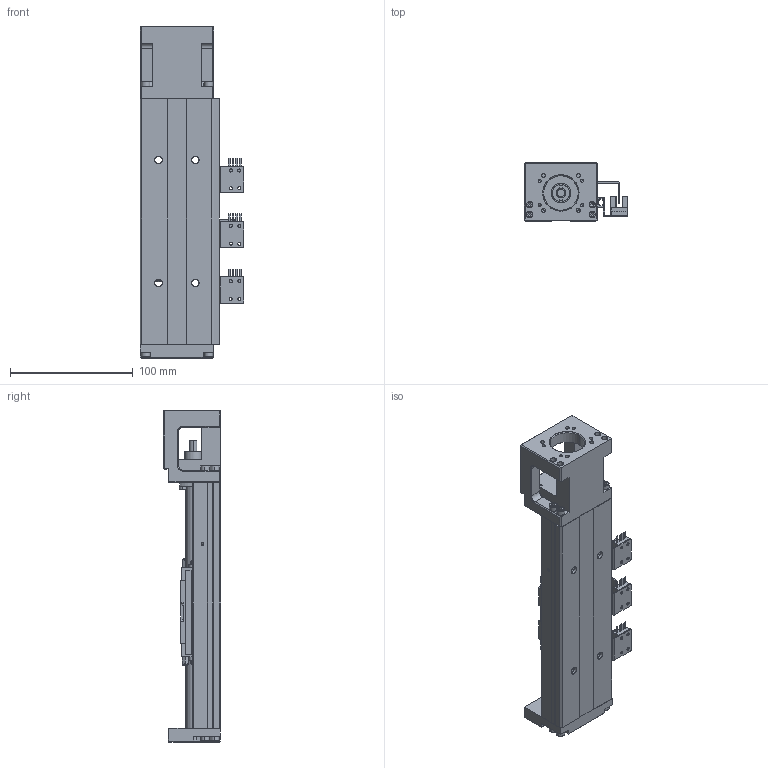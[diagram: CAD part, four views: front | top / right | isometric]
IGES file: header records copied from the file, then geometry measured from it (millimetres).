
Start section: SolidWorks IGES file using analytic representation for surfaces
Global section: file name: C:\Users\Administrator\Desktop\600L\ﾎﾞｻｬﾌｨ\GSX60C-MF-200L-ﾎﾞｻｬﾌｨ.IGS; native system: SolidWorks 2013; preprocessor: SolidWorks 2013; author: ｹｾﾇｿ,; organization: 11; date: 170411.104000; units: millimetre
Bounding box: 84.5 x 47 x 270 mm (x, y, z)
Surface area: 128529 mm2 (no closed solid volume)
Topology: 0 solids, 0 shells, 1248 faces, 14989 edges, 14880 vertices
Faces by surface type: bspline 730, revolution 518
